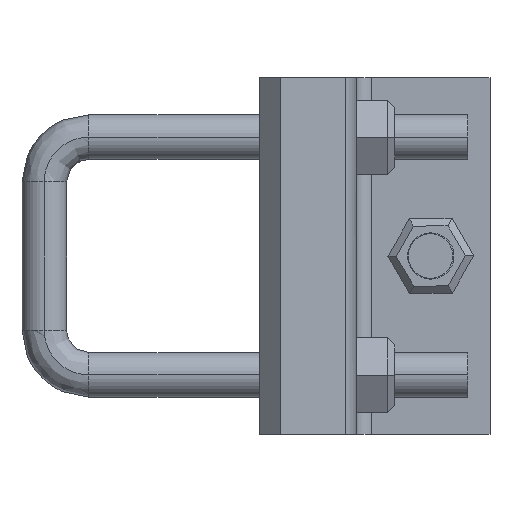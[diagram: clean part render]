
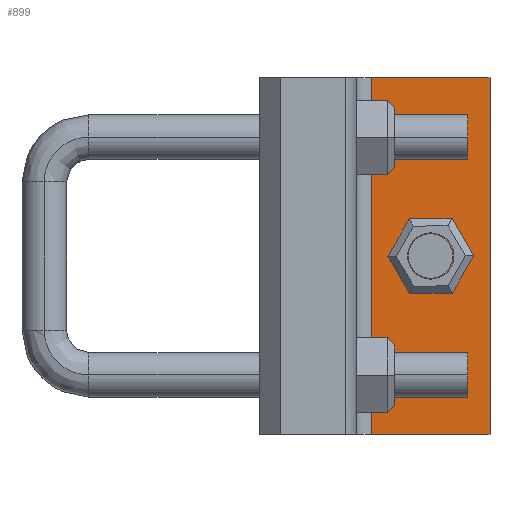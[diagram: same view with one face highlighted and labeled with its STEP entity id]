
A CAD part, left-side view. The second image highlights one B-rep face of the part: STEP entity #899.
In plain terms, the highlighted planar face has unit normal (-1, 0, 0).
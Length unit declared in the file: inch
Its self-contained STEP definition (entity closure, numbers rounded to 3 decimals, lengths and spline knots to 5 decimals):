
#899=ADVANCED_FACE('',(#2180),#2181,.T.);
#903=EDGE_CURVE('',#2186,#2029,#2187,.T.);
#1061=EDGE_CURVE('',#2416,#2186,#2417,.T.);
#1247=EDGE_CURVE('',#2158,#2029,#2671,.T.);
#1511=EDGE_CURVE('',#2158,#2416,#3000,.T.);
#2029=VERTEX_POINT('',#3754);
#2158=VERTEX_POINT('',#3995);
#2180=FACE_OUTER_BOUND('',#4032,.T.);
#2181=PLANE('',#4033);
#2186=VERTEX_POINT('',#4039);
#2187=LINE('',#4040,#4041);
#2416=VERTEX_POINT('',#4503);
#2417=LINE('',#4504,#4505);
#2671=LINE('',#4995,#4996);
#3000=LINE('',#5794,#5795);
#3754=CARTESIAN_POINT('',(0.0,1.0,3.0));
#3995=CARTESIAN_POINT('',(0.0,1.0,0.0));
#4032=EDGE_LOOP('',(#6691,#6692,#6693,#6694));
#4033=AXIS2_PLACEMENT_3D('',#6695,#6696,#6697);
#4039=CARTESIAN_POINT('',(0.0,0.0,3.0));
#4040=CARTESIAN_POINT('',(0.0,1.0,3.0));
#4041=VECTOR('',#6706,1.0);
#4503=CARTESIAN_POINT('',(0.0,0.0,0.0));
#4504=CARTESIAN_POINT('',(0.0,0.0,0.0));
#4505=VECTOR('',#6979,1.0);
#4995=CARTESIAN_POINT('',(0.0,1.0,0.0));
#4996=VECTOR('',#7298,1.0);
#5794=CARTESIAN_POINT('',(0.0,1.0,0.0));
#5795=VECTOR('',#7735,1.0);
#6691=ORIENTED_EDGE('',*,*,#903,.T.);
#6692=ORIENTED_EDGE('',*,*,#1247,.F.);
#6693=ORIENTED_EDGE('',*,*,#1511,.T.);
#6694=ORIENTED_EDGE('',*,*,#1061,.T.);
#6695=CARTESIAN_POINT('',(0.0,0.5,0.0));
#6696=DIRECTION('',(-1.0,0.0,0.0));
#6697=DIRECTION('',(0.0,-1.0,0.0));
#6706=DIRECTION('',(0.0,1.0,0.0));
#6979=DIRECTION('',(0.0,0.0,1.0));
#7298=DIRECTION('',(0.0,0.0,1.0));
#7735=DIRECTION('',(0.0,-1.0,0.0));
